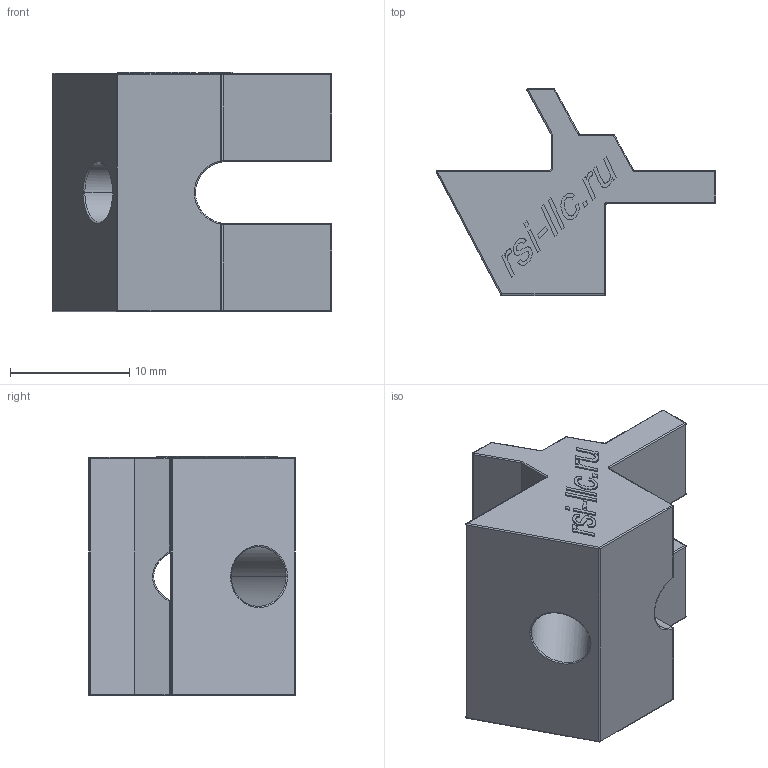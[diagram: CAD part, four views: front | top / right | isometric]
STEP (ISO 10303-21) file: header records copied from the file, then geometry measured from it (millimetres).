
FILE_DESCRIPTION (( 'STEP AP214' ), '1' );
FILE_NAME ('7225.STEP', '2020-12-24T10:11:26', ( '' ), ( '' ), 'SwSTEP 2.0', 'SolidWorks 2020', '' );
FILE_SCHEMA (( 'AUTOMOTIVE_DESIGN' ));
Length unit declared in the file: millimetre
Products named in the file (1): 7225
Bounding box: 23.46 x 17.35 x 20.1 mm (x, y, z)
Volume: 2993.5 mm3; surface area: 2009.6 mm2
Topology: 12 solids, 12 shells, 242 faces, 577 edges, 333 vertices
Faces by surface type: plane 96, cylinder 62, bspline 46, sphere 23, torus 15
Entity records: 10192 total; most frequent: CARTESIAN_POINT 3737, ORIENTED_EDGE 1108, DIRECTION 988, EDGE_CURVE 554, AXIS2_PLACEMENT_3D 340, VERTEX_POINT 333, VECTOR 308, LINE 308
